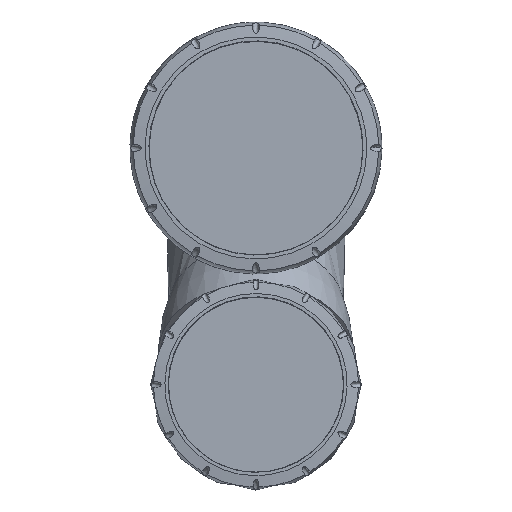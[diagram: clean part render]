
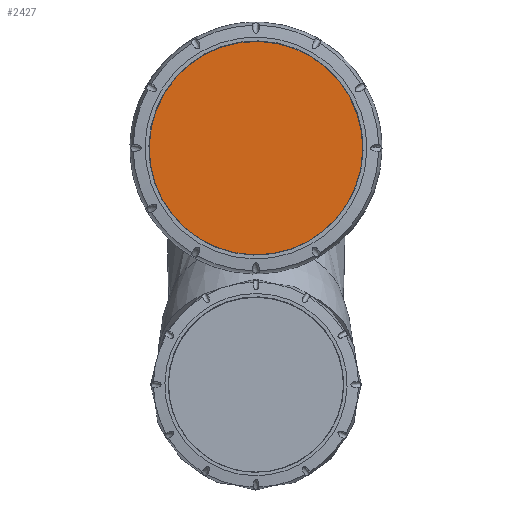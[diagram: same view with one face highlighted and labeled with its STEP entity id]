
A CAD part, top view. The second image highlights one B-rep face of the part: STEP entity #2427.
In plain terms, the highlighted planar face has unit normal (0, 0, 1).
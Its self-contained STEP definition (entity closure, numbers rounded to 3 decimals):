
#428=PLANE('',#2576);
#488=FACE_OUTER_BOUND('',#629,.T.);
#629=EDGE_LOOP('',(#1566,#1567));
#808=CIRCLE('',#2577,55.5);
#809=CIRCLE('',#2578,55.5);
#930=VERTEX_POINT('',#3418);
#931=VERTEX_POINT('',#3419);
#1197=EDGE_CURVE('',#930,#931,#808,.T.);
#1198=EDGE_CURVE('',#931,#930,#809,.T.);
#1566=ORIENTED_EDGE('',*,*,#1197,.F.);
#1567=ORIENTED_EDGE('',*,*,#1198,.F.);
#2427=ADVANCED_FACE('',(#488),#428,.T.);
#2576=AXIS2_PLACEMENT_3D('',#3417,#2734,#2735);
#2577=AXIS2_PLACEMENT_3D('',#3420,#2736,#2737);
#2578=AXIS2_PLACEMENT_3D('',#3421,#2738,#2739);
#2734=DIRECTION('center_axis',(0.,0.,1.));
#2735=DIRECTION('ref_axis',(0.935,-0.356,0.));
#2736=DIRECTION('center_axis',(0.,0.,-1.));
#2737=DIRECTION('ref_axis',(-0.878,-0.479,0.));
#2738=DIRECTION('center_axis',(0.,0.,-1.));
#2739=DIRECTION('ref_axis',(0.878,0.479,0.));
#3417=CARTESIAN_POINT('Origin',(-72.853,-32.866,208.208));
#3418=CARTESIAN_POINT('',(-48.705,-26.609,208.208));
#3419=CARTESIAN_POINT('',(48.706,26.608,208.208));
#3420=CARTESIAN_POINT('Origin',(-0.001,0.001,
208.208));
#3421=CARTESIAN_POINT('Origin',(0.001,-0.001,
208.208));
